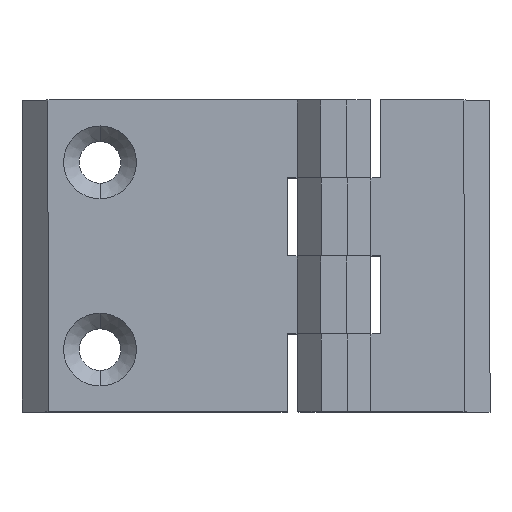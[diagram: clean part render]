
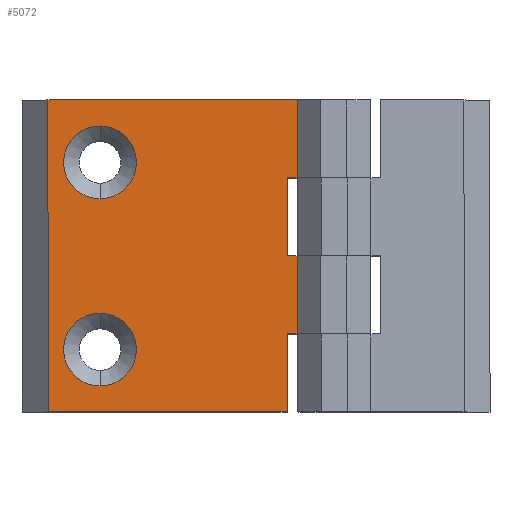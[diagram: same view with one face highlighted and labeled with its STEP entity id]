
A CAD part, top view. The second image highlights one B-rep face of the part: STEP entity #5072.
In plain terms, the highlighted planar face has unit normal (0, 0, 1) as drawn and (0, 1, 0) by its records, which use the part's own axes.
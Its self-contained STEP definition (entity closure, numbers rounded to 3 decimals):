
#1652 = LINE ( 'NONE', #1671, #1673 ) ;
#1671 = CARTESIAN_POINT ( 'NONE',  ( 5., 8.5, 60. ) ) ;
#1673 = VECTOR ( 'NONE', #1732, 1000. ) ;
#1676 = CARTESIAN_POINT ( 'NONE',  ( 51., 8.5, 45. ) ) ;
#1677 = CARTESIAN_POINT ( 'NONE',  ( 52.9, 8.5, 15. ) ) ;
#1678 = LINE ( 'NONE', #1677, #1729 ) ;
#1696 = CARTESIAN_POINT ( 'NONE',  ( 52.9, 8.5, 30. ) ) ;
#1721 = DIRECTION ( 'NONE',  ( 0., 0., -1. ) ) ;
#1722 = VECTOR ( 'NONE', #1721, 1000. ) ;
#1723 = CARTESIAN_POINT ( 'NONE',  ( 51., 8.5, 60. ) ) ;
#1724 = LINE ( 'NONE', #1723, #1722 ) ;
#1728 = DIRECTION ( 'NONE',  ( 1., 0., 0. ) ) ;
#1729 = VECTOR ( 'NONE', #1728, 1000. ) ;
#1732 = DIRECTION ( 'NONE',  ( 0., 0., -1. ) ) ;
#1738 = DIRECTION ( 'NONE',  ( -1., 0., 0. ) ) ;
#1739 = VECTOR ( 'NONE', #1738, 1000. ) ;
#1744 = LINE ( 'NONE', #1755, #1739 ) ;
#1755 = CARTESIAN_POINT ( 'NONE',  ( 52.9, 8.5, 0. ) ) ;
#1898 = CARTESIAN_POINT ( 'NONE',  ( 5., 8.5, 0. ) ) ;
#1922 = DIRECTION ( 'NONE',  ( -1., 0., 0. ) ) ;
#1923 = VECTOR ( 'NONE', #1922, 1000. ) ;
#1924 = CARTESIAN_POINT ( 'NONE',  ( 52.9, 8.5, 60. ) ) ;
#1925 = LINE ( 'NONE', #1924, #1923 ) ;
#1927 = DIRECTION ( 'NONE',  ( 0., 0., -1. ) ) ;
#1928 = VECTOR ( 'NONE', #1927, 1000. ) ;
#1929 = CARTESIAN_POINT ( 'NONE',  ( 52.9, 8.5, 60. ) ) ;
#1930 = LINE ( 'NONE', #1929, #1928 ) ;
#2362 = CARTESIAN_POINT ( 'NONE',  ( 15., 8.5, 55. ) ) ;
#2413 = CARTESIAN_POINT ( 'NONE',  ( 15., 8.5, 41. ) ) ;
#2414 = DIRECTION ( 'NONE',  ( 0., 0., 1. ) ) ;
#2415 = DIRECTION ( 'NONE',  ( 0., 1., 0. ) ) ;
#2416 = CARTESIAN_POINT ( 'NONE',  ( 15., 8.5, 48. ) ) ;
#2417 = AXIS2_PLACEMENT_3D ( 'NONE', #2416, #2415, #2414 ) ;
#2418 = CIRCLE ( 'NONE', #2417, 7. ) ;
#2440 = CIRCLE ( 'NONE', #2496, 7. ) ;
#2443 = CARTESIAN_POINT ( 'NONE',  ( 15., 8.5, 12. ) ) ;
#2491 = CARTESIAN_POINT ( 'NONE',  ( 15., 8.5, 5. ) ) ;
#2492 = CARTESIAN_POINT ( 'NONE',  ( 15., 8.5, 19. ) ) ;
#2493 = DIRECTION ( 'NONE',  ( 0., 0., 1. ) ) ;
#2494 = DIRECTION ( 'NONE',  ( 0., 1., 0. ) ) ;
#2496 = AXIS2_PLACEMENT_3D ( 'NONE', #2443, #2494, #2493 ) ;
#2538 = CARTESIAN_POINT ( 'NONE',  ( 52.9, 8.5, 15. ) ) ;
#2542 = CARTESIAN_POINT ( 'NONE',  ( 52.9, 8.5, 0. ) ) ;
#2597 = CARTESIAN_POINT ( 'NONE',  ( 5., 8.5, 60. ) ) ;
#2600 = CARTESIAN_POINT ( 'NONE',  ( 51., 8.5, 60. ) ) ;
#2849 = DIRECTION ( 'NONE',  ( 0., 0., 1. ) ) ;
#2850 = DIRECTION ( 'NONE',  ( 0., 1., 0. ) ) ;
#2851 = AXIS2_PLACEMENT_3D ( 'NONE', #2855, #2850, #2849 ) ;
#2854 = CIRCLE ( 'NONE', #2851, 7. ) ;
#2855 = CARTESIAN_POINT ( 'NONE',  ( 15., 8.5, 12. ) ) ;
#2880 = DIRECTION ( 'NONE',  ( -1., 0., 0. ) ) ;
#2881 = VECTOR ( 'NONE', #2880, 1000. ) ;
#2882 = CARTESIAN_POINT ( 'NONE',  ( 52.9, 8.5, 30. ) ) ;
#2884 = LINE ( 'NONE', #2882, #2881 ) ;
#2886 = DIRECTION ( 'NONE',  ( 1., 0., 0. ) ) ;
#2887 = VECTOR ( 'NONE', #2886, 1000. ) ;
#2888 = CARTESIAN_POINT ( 'NONE',  ( 52.9, 8.5, 45. ) ) ;
#2889 = LINE ( 'NONE', #2888, #2887 ) ;
#2892 = DIRECTION ( 'NONE',  ( 0., 0., -1. ) ) ;
#2893 = VECTOR ( 'NONE', #2892, 1000. ) ;
#2894 = CARTESIAN_POINT ( 'NONE',  ( 51., 8.5, 60. ) ) ;
#2895 = LINE ( 'NONE', #2894, #2893 ) ;
#2929 = PLANE ( 'NONE',  #2993 ) ;
#2930 = FACE_BOUND ( 'NONE', #5065, .T. ) ;
#2933 = FACE_OUTER_BOUND ( 'NONE', #5074, .T. ) ;
#2934 = FACE_BOUND ( 'NONE', #5077, .T. ) ;
#2935 = DIRECTION ( 'NONE',  ( 0., 0., -1. ) ) ;
#2936 = VECTOR ( 'NONE', #2935, 1000. ) ;
#2937 = CARTESIAN_POINT ( 'NONE',  ( 52.9, 8.5, 60. ) ) ;
#2938 = CARTESIAN_POINT ( 'NONE',  ( 15., 8.5, 48. ) ) ;
#2939 = CARTESIAN_POINT ( 'NONE',  ( 52.9, 8.5, 45. ) ) ;
#2940 = CARTESIAN_POINT ( 'NONE',  ( 51., 8.5, 15. ) ) ;
#2941 = CARTESIAN_POINT ( 'NONE',  ( 52.9, 8.5, 60. ) ) ;
#2943 = LINE ( 'NONE', #2937, #2936 ) ;
#2956 = CARTESIAN_POINT ( 'NONE',  ( 51., 8.5, 30. ) ) ;
#2977 = DIRECTION ( 'NONE',  ( 0., 0., 1. ) ) ;
#2986 = DIRECTION ( 'NONE',  ( 0., 1., 0. ) ) ;
#2987 = DIRECTION ( 'NONE',  ( 1., 0., 0. ) ) ;
#2988 = DIRECTION ( 'NONE',  ( 0., -1., 0. ) ) ;
#2992 = AXIS2_PLACEMENT_3D ( 'NONE', #2938, #2986, #2977 ) ;
#2993 = AXIS2_PLACEMENT_3D ( 'NONE', #2941, #2988, #2987 ) ;
#2994 = CIRCLE ( 'NONE', #2992, 7. ) ;
#4538 = VERTEX_POINT ( 'NONE', #1696 ) ;
#4539 = EDGE_CURVE ( 'NONE', #4857, #4589, #1652, .T. ) ;
#4540 = ORIENTED_EDGE ( 'NONE', *, *, #4605, .F. ) ;
#4542 = EDGE_CURVE ( 'NONE', #5070, #4828, #1678, .T. ) ;
#4543 = ORIENTED_EDGE ( 'NONE', *, *, #5014, .T. ) ;
#4545 = EDGE_CURVE ( 'NONE', #5073, #5070, #1724, .T. ) ;
#4546 = VERTEX_POINT ( 'NONE', #1676 ) ;
#4548 = ORIENTED_EDGE ( 'NONE', *, *, #4542, .T. ) ;
#4549 = ORIENTED_EDGE ( 'NONE', *, *, #4600, .T. ) ;
#4551 = ORIENTED_EDGE ( 'NONE', *, *, #4773, .F. ) ;
#4580 = EDGE_CURVE ( 'NONE', #4829, #4589, #1744, .T. ) ;
#4589 = VERTEX_POINT ( 'NONE', #1898 ) ;
#4600 = EDGE_CURVE ( 'NONE', #4828, #4829, #1930, .T. ) ;
#4605 = EDGE_CURVE ( 'NONE', #4855, #4857, #1925, .T. ) ;
#4723 = VERTEX_POINT ( 'NONE', #2362 ) ;
#4751 = EDGE_CURVE ( 'NONE', #4753, #4723, #2418, .T. ) ;
#4753 = VERTEX_POINT ( 'NONE', #2413 ) ;
#4773 = EDGE_CURVE ( 'NONE', #4777, #4776, #2440, .T. ) ;
#4776 = VERTEX_POINT ( 'NONE', #2492 ) ;
#4777 = VERTEX_POINT ( 'NONE', #2491 ) ;
#4828 = VERTEX_POINT ( 'NONE', #2538 ) ;
#4829 = VERTEX_POINT ( 'NONE', #2542 ) ;
#4855 = VERTEX_POINT ( 'NONE', #2600 ) ;
#4857 = VERTEX_POINT ( 'NONE', #2597 ) ;
#4995 = ORIENTED_EDGE ( 'NONE', *, *, #4545, .T. ) ;
#4996 = EDGE_CURVE ( 'NONE', #4776, #4777, #2854, .T. ) ;
#5011 = ORIENTED_EDGE ( 'NONE', *, *, #4580, .T. ) ;
#5013 = ORIENTED_EDGE ( 'NONE', *, *, #4539, .F. ) ;
#5014 = EDGE_CURVE ( 'NONE', #4855, #4546, #2895, .T. ) ;
#5015 = ORIENTED_EDGE ( 'NONE', *, *, #5063, .T. ) ;
#5016 = EDGE_CURVE ( 'NONE', #4546, #5064, #2889, .T. ) ;
#5017 = EDGE_CURVE ( 'NONE', #4538, #5073, #2884, .T. ) ;
#5018 = ORIENTED_EDGE ( 'NONE', *, *, #5016, .T. ) ;
#5026 = ORIENTED_EDGE ( 'NONE', *, *, #5017, .T. ) ;
#5063 = EDGE_CURVE ( 'NONE', #5064, #4538, #2943, .T. ) ;
#5064 = VERTEX_POINT ( 'NONE', #2939 ) ;
#5065 = EDGE_LOOP ( 'NONE', ( #5069, #4551 ) ) ;
#5068 = ORIENTED_EDGE ( 'NONE', *, *, #5076, .F. ) ;
#5069 = ORIENTED_EDGE ( 'NONE', *, *, #4996, .F. ) ;
#5070 = VERTEX_POINT ( 'NONE', #2940 ) ;
#5071 = ORIENTED_EDGE ( 'NONE', *, *, #4751, .F. ) ;
#5072 = ADVANCED_FACE ( 'NONE', ( #2930, #2934, #2933 ), #2929, .F. ) ;
#5073 = VERTEX_POINT ( 'NONE', #2956 ) ;
#5074 = EDGE_LOOP ( 'NONE', ( #4995, #4548, #4549, #5011, #5013, #4540, #4543, #5018, #5015, #5026 ) ) ;
#5076 = EDGE_CURVE ( 'NONE', #4723, #4753, #2994, .T. ) ;
#5077 = EDGE_LOOP ( 'NONE', ( #5068, #5071 ) ) ;
